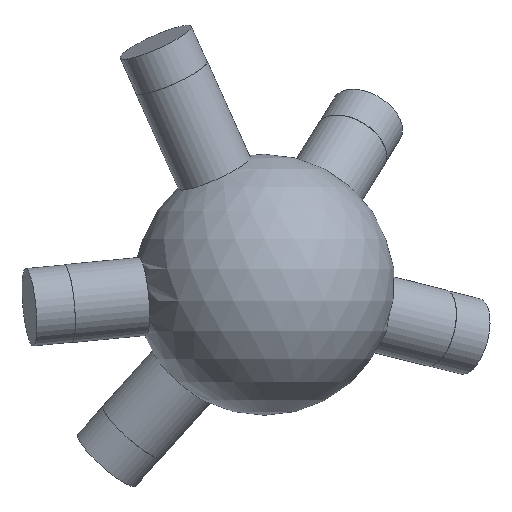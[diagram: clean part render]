
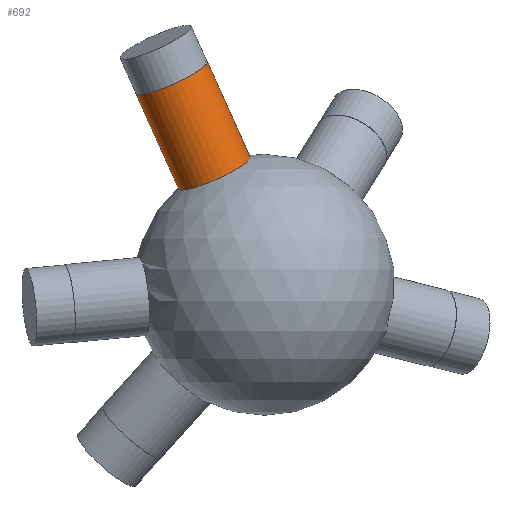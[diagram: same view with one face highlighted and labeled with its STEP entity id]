
A CAD part, left-side view. The second image highlights one B-rep face of the part: STEP entity #692.
In plain terms, the highlighted cylindrical face has radius 6 mm (diameter 12 mm), a full revolution.
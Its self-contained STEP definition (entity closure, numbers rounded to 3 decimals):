
#35 = SPHERICAL_SURFACE('',#36,20.);
#36 = AXIS2_PLACEMENT_3D('',#37,#38,#39);
#37 = CARTESIAN_POINT('',(0.,0.,0.));
#38 = DIRECTION('',(0.,0.,1.));
#39 = DIRECTION('',(1.,0.,-0.));
#302 = EDGE_CURVE('',#303,#303,#305,.T.);
#303 = VERTEX_POINT('',#304);
#304 = CARTESIAN_POINT('',(-3.347,13.147,
    14.695));
#305 = SURFACE_CURVE('',#306,(#311,#422),.PCURVE_S1.);
#306 = CIRCLE('',#307,6.);
#307 = AXIS2_PLACEMENT_3D('',#308,#309,#310);
#308 = CARTESIAN_POINT('',(-3.347,7.67,
    17.145));
#309 = DIRECTION('',(-0.175,0.402,0.899));
#310 = DIRECTION('',(0.,-0.913,0.408)
  );
#311 = PCURVE('',#35,#312);
#312 = DEFINITIONAL_REPRESENTATION('',(#313),#421);
#313 = B_SPLINE_CURVE_WITH_KNOTS('',8,(#314,#315,#316,#317,#318,#319,
    #320,#321,#322,#323,#324,#325,#326,#327,#328,#329,#330,#331,#332,
    #333,#334,#335,#336,#337,#338,#339,#340,#341,#342,#343,#344,#345,
    #346,#347,#348,#349,#350,#351,#352,#353,#354,#355,#356,#357,#358,
    #359,#360,#361,#362,#363,#364,#365,#366,#367,#368,#369,#370,#371,
    #372,#373,#374,#375,#376,#377,#378,#379,#380,#381,#382,#383,#384,
    #385,#386,#387,#388,#389,#390,#391,#392,#393,#394,#395,#396,#397,
    #398,#399,#400,#401,#402,#403,#404,#405,#406,#407,#408,#409,#410,
    #411,#412,#413,#414,#415,#416,#417,#418,#419,#420),.UNSPECIFIED.,.F.
  ,.F.,(9,7,7,7,7,7,7,7,7,7,7,7,7,7,7,9),(3.142,3.927,
    4.614,5.216,5.742,5.972,
    6.188,6.39,6.58,6.757,
    6.924,7.237,7.51,7.989,
    8.707,9.425),.UNSPECIFIED.);
#314 = CARTESIAN_POINT('',(1.82,0.825));
#315 = CARTESIAN_POINT('',(1.862,0.818));
#316 = CARTESIAN_POINT('',(1.905,0.813));
#317 = CARTESIAN_POINT('',(1.948,0.811));
#318 = CARTESIAN_POINT('',(1.991,0.81));
#319 = CARTESIAN_POINT('',(2.033,0.811));
#320 = CARTESIAN_POINT('',(2.076,0.815));
#321 = CARTESIAN_POINT('',(2.119,0.82));
#322 = CARTESIAN_POINT('',(2.198,0.835));
#323 = CARTESIAN_POINT('',(2.234,0.843));
#324 = CARTESIAN_POINT('',(2.27,0.853));
#325 = CARTESIAN_POINT('',(2.306,0.864));
#326 = CARTESIAN_POINT('',(2.341,0.877));
#327 = CARTESIAN_POINT('',(2.375,0.891));
#328 = CARTESIAN_POINT('',(2.409,0.906));
#329 = CARTESIAN_POINT('',(2.47,0.938));
#330 = CARTESIAN_POINT('',(2.497,0.953));
#331 = CARTESIAN_POINT('',(2.524,0.97));
#332 = CARTESIAN_POINT('',(2.55,0.987));
#333 = CARTESIAN_POINT('',(2.575,1.005));
#334 = CARTESIAN_POINT('',(2.599,1.024));
#335 = CARTESIAN_POINT('',(2.621,1.044));
#336 = CARTESIAN_POINT('',(2.66,1.082));
#337 = CARTESIAN_POINT('',(2.677,1.1));
#338 = CARTESIAN_POINT('',(2.692,1.118));
#339 = CARTESIAN_POINT('',(2.705,1.137));
#340 = CARTESIAN_POINT('',(2.717,1.156));
#341 = CARTESIAN_POINT('',(2.726,1.176));
#342 = CARTESIAN_POINT('',(2.732,1.196));
#343 = CARTESIAN_POINT('',(2.736,1.224));
#344 = CARTESIAN_POINT('',(2.736,1.233));
#345 = CARTESIAN_POINT('',(2.735,1.241));
#346 = CARTESIAN_POINT('',(2.734,1.25));
#347 = CARTESIAN_POINT('',(2.732,1.258));
#348 = CARTESIAN_POINT('',(2.728,1.267));
#349 = CARTESIAN_POINT('',(2.724,1.276));
#350 = CARTESIAN_POINT('',(2.713,1.292));
#351 = CARTESIAN_POINT('',(2.706,1.3));
#352 = CARTESIAN_POINT('',(2.698,1.308));
#353 = CARTESIAN_POINT('',(2.689,1.315));
#354 = CARTESIAN_POINT('',(2.678,1.323));
#355 = CARTESIAN_POINT('',(2.665,1.331));
#356 = CARTESIAN_POINT('',(2.65,1.338));
#357 = CARTESIAN_POINT('',(2.618,1.352));
#358 = CARTESIAN_POINT('',(2.6,1.358));
#359 = CARTESIAN_POINT('',(2.581,1.365));
#360 = CARTESIAN_POINT('',(2.559,1.371));
#361 = CARTESIAN_POINT('',(2.535,1.377));
#362 = CARTESIAN_POINT('',(2.508,1.383));
#363 = CARTESIAN_POINT('',(2.478,1.388));
#364 = CARTESIAN_POINT('',(2.415,1.397));
#365 = CARTESIAN_POINT('',(2.382,1.402));
#366 = CARTESIAN_POINT('',(2.347,1.406));
#367 = CARTESIAN_POINT('',(2.309,1.409));
#368 = CARTESIAN_POINT('',(2.269,1.412));
#369 = CARTESIAN_POINT('',(2.226,1.415));
#370 = CARTESIAN_POINT('',(2.182,1.417));
#371 = CARTESIAN_POINT('',(2.093,1.42));
#372 = CARTESIAN_POINT('',(2.049,1.421));
#373 = CARTESIAN_POINT('',(2.004,1.422));
#374 = CARTESIAN_POINT('',(1.959,1.422));
#375 = CARTESIAN_POINT('',(1.914,1.421));
#376 = CARTESIAN_POINT('',(1.869,1.42));
#377 = CARTESIAN_POINT('',(1.826,1.419));
#378 = CARTESIAN_POINT('',(1.745,1.415));
#379 = CARTESIAN_POINT('',(1.708,1.413));
#380 = CARTESIAN_POINT('',(1.671,1.41));
#381 = CARTESIAN_POINT('',(1.637,1.407));
#382 = CARTESIAN_POINT('',(1.604,1.404));
#383 = CARTESIAN_POINT('',(1.574,1.401));
#384 = CARTESIAN_POINT('',(1.545,1.397));
#385 = CARTESIAN_POINT('',(1.468,1.385));
#386 = CARTESIAN_POINT('',(1.425,1.377));
#387 = CARTESIAN_POINT('',(1.388,1.367));
#388 = CARTESIAN_POINT('',(1.357,1.357));
#389 = CARTESIAN_POINT('',(1.331,1.347));
#390 = CARTESIAN_POINT('',(1.309,1.337));
#391 = CARTESIAN_POINT('',(1.291,1.326));
#392 = CARTESIAN_POINT('',(1.264,1.305));
#393 = CARTESIAN_POINT('',(1.253,1.295));
#394 = CARTESIAN_POINT('',(1.245,1.285));
#395 = CARTESIAN_POINT('',(1.239,1.275));
#396 = CARTESIAN_POINT('',(1.235,1.265));
#397 = CARTESIAN_POINT('',(1.232,1.254));
#398 = CARTESIAN_POINT('',(1.23,1.244));
#399 = CARTESIAN_POINT('',(1.228,1.216));
#400 = CARTESIAN_POINT('',(1.231,1.198));
#401 = CARTESIAN_POINT('',(1.237,1.18));
#402 = CARTESIAN_POINT('',(1.245,1.162));
#403 = CARTESIAN_POINT('',(1.255,1.145));
#404 = CARTESIAN_POINT('',(1.267,1.128));
#405 = CARTESIAN_POINT('',(1.28,1.111));
#406 = CARTESIAN_POINT('',(1.316,1.069));
#407 = CARTESIAN_POINT('',(1.341,1.045));
#408 = CARTESIAN_POINT('',(1.368,1.021));
#409 = CARTESIAN_POINT('',(1.397,0.999));
#410 = CARTESIAN_POINT('',(1.427,0.978));
#411 = CARTESIAN_POINT('',(1.459,0.958));
#412 = CARTESIAN_POINT('',(1.492,0.939));
#413 = CARTESIAN_POINT('',(1.56,0.904));
#414 = CARTESIAN_POINT('',(1.595,0.888));
#415 = CARTESIAN_POINT('',(1.631,0.874));
#416 = CARTESIAN_POINT('',(1.668,0.861));
#417 = CARTESIAN_POINT('',(1.705,0.849));
#418 = CARTESIAN_POINT('',(1.743,0.84));
#419 = CARTESIAN_POINT('',(1.782,0.832));
#420 = CARTESIAN_POINT('',(1.82,0.825));
#421 = ( GEOMETRIC_REPRESENTATION_CONTEXT(2) 
PARAMETRIC_REPRESENTATION_CONTEXT() REPRESENTATION_CONTEXT('2D SPACE',''
  ) );
#422 = PCURVE('',#423,#428);
#423 = CYLINDRICAL_SURFACE('',#424,6.);
#424 = AXIS2_PLACEMENT_3D('',#425,#426,#427);
#425 = CARTESIAN_POINT('',(0.,0.,0.));
#426 = DIRECTION('',(-0.175,0.402,0.899));
#427 = DIRECTION('',(0.,0.913,-0.408)
  );
#428 = DEFINITIONAL_REPRESENTATION('',(#429),#433);
#429 = LINE('',#430,#431);
#430 = CARTESIAN_POINT('',(-3.142,19.079));
#431 = VECTOR('',#432,1.);
#432 = DIRECTION('',(1.,0.));
#433 = ( GEOMETRIC_REPRESENTATION_CONTEXT(2) 
PARAMETRIC_REPRESENTATION_CONTEXT() REPRESENTATION_CONTEXT('2D SPACE',''
  ) );
#692 = ADVANCED_FACE('',(#693),#423,.T.);
#693 = FACE_BOUND('',#694,.T.);
#694 = EDGE_LOOP('',(#695,#718,#745,#746));
#695 = ORIENTED_EDGE('',*,*,#696,.T.);
#696 = EDGE_CURVE('',#303,#697,#699,.T.);
#697 = VERTEX_POINT('',#698);
#698 = CARTESIAN_POINT('',(-6.204,19.692,
    29.325));
#699 = SEAM_CURVE('',#700,(#704,#711),.PCURVE_S1.);
#700 = LINE('',#701,#702);
#701 = CARTESIAN_POINT('',(0.,5.477,
    -2.45));
#702 = VECTOR('',#703,1.);
#703 = DIRECTION('',(-0.175,0.402,0.899));
#704 = PCURVE('',#423,#705);
#705 = DEFINITIONAL_REPRESENTATION('',(#706),#710);
#706 = LINE('',#707,#708);
#707 = CARTESIAN_POINT('',(6.283,-0.));
#708 = VECTOR('',#709,1.);
#709 = DIRECTION('',(0.,1.));
#710 = ( GEOMETRIC_REPRESENTATION_CONTEXT(2) 
PARAMETRIC_REPRESENTATION_CONTEXT() REPRESENTATION_CONTEXT('2D SPACE',''
  ) );
#711 = PCURVE('',#423,#712);
#712 = DEFINITIONAL_REPRESENTATION('',(#713),#717);
#713 = LINE('',#714,#715);
#714 = CARTESIAN_POINT('',(0.,-0.));
#715 = VECTOR('',#716,1.);
#716 = DIRECTION('',(0.,1.));
#717 = ( GEOMETRIC_REPRESENTATION_CONTEXT(2) 
PARAMETRIC_REPRESENTATION_CONTEXT() REPRESENTATION_CONTEXT('2D SPACE',''
  ) );
#718 = ORIENTED_EDGE('',*,*,#719,.F.);
#719 = EDGE_CURVE('',#697,#697,#720,.T.);
#720 = SURFACE_CURVE('',#721,(#726,#733),.PCURVE_S1.);
#721 = CIRCLE('',#722,6.);
#722 = AXIS2_PLACEMENT_3D('',#723,#724,#725);
#723 = CARTESIAN_POINT('',(-6.204,14.215,
    31.775));
#724 = DIRECTION('',(-0.175,0.402,0.899));
#725 = DIRECTION('',(0.,0.913,-0.408)
  );
#726 = PCURVE('',#423,#727);
#727 = DEFINITIONAL_REPRESENTATION('',(#728),#732);
#728 = LINE('',#729,#730);
#729 = CARTESIAN_POINT('',(0.,35.359));
#730 = VECTOR('',#731,1.);
#731 = DIRECTION('',(1.,0.));
#732 = ( GEOMETRIC_REPRESENTATION_CONTEXT(2) 
PARAMETRIC_REPRESENTATION_CONTEXT() REPRESENTATION_CONTEXT('2D SPACE',''
  ) );
#733 = PCURVE('',#734,#739);
#734 = PLANE('',#735);
#735 = AXIS2_PLACEMENT_3D('',#736,#737,#738);
#736 = CARTESIAN_POINT('',(-6.204,14.215,
    31.775));
#737 = DIRECTION('',(-0.175,0.402,0.899));
#738 = DIRECTION('',(0.,0.913,-0.408)
  );
#739 = DEFINITIONAL_REPRESENTATION('',(#740),#744);
#740 = CIRCLE('',#741,6.);
#741 = AXIS2_PLACEMENT_2D('',#742,#743);
#742 = CARTESIAN_POINT('',(0.,0.));
#743 = DIRECTION('',(1.,0.));
#744 = ( GEOMETRIC_REPRESENTATION_CONTEXT(2) 
PARAMETRIC_REPRESENTATION_CONTEXT() REPRESENTATION_CONTEXT('2D SPACE',''
  ) );
#745 = ORIENTED_EDGE('',*,*,#696,.F.);
#746 = ORIENTED_EDGE('',*,*,#302,.T.);
